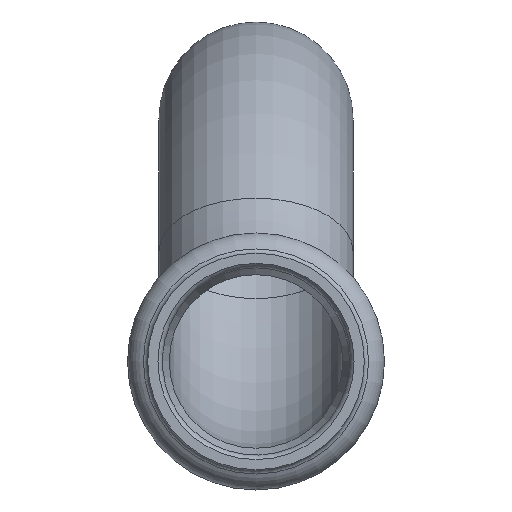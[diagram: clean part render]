
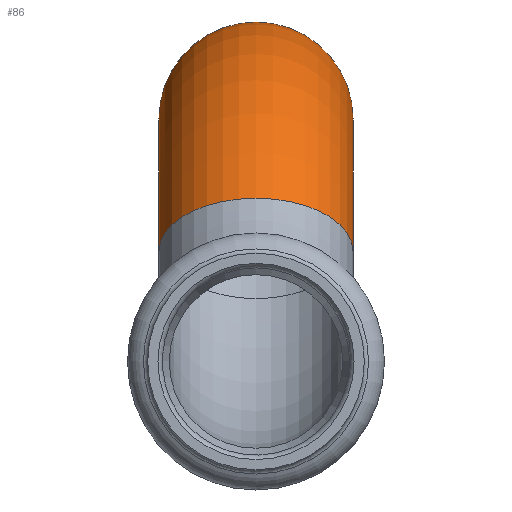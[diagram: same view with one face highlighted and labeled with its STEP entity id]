
A CAD part, front view. The second image highlights one B-rep face of the part: STEP entity #86.
In plain terms, the highlighted toroidal (fillet/blend) face has major radius 42 mm and minor radius 14 mm.
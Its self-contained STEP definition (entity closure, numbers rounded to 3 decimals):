
#86=ADVANCED_FACE('',(#308,#310),#312,.T.);
#308=FACE_OUTER_BOUND('',#309,.T.);
#309=EDGE_LOOP('',(#495));
#310=FACE_OUTER_BOUND('',#311,.T.);
#311=EDGE_LOOP('',(#496));
#312=TOROIDAL_SURFACE('',#313,42.,14.);
#313=AXIS2_PLACEMENT_3D('',#314,#315,#316);
#314=CARTESIAN_POINT('',(0.,104.,-7.));
#315=DIRECTION('',(-1.,0.,0.));
#316=DIRECTION('',(0.,-0.838,0.545));
#495=ORIENTED_EDGE('',*,*,#554,.F.);
#496=ORIENTED_EDGE('',*,*,#552,.T.);
#552=EDGE_CURVE('',#622,#622,#623,.T.);
#554=EDGE_CURVE('',#626,#626,#627,.T.);
#622=VERTEX_POINT('',#789);
#623=CIRCLE('',#790,14.);
#626=VERTEX_POINT('',#799);
#627=CIRCLE('',#800,14.);
#789=CARTESIAN_POINT('',(-14.,68.798,15.909));
#790=AXIS2_PLACEMENT_3D('',#791,#792,#793);
#791=CARTESIAN_POINT('',(0.,68.798,15.909));
#792=DIRECTION('',(0.,0.545,0.838));
#793=DIRECTION('',(-1.,0.,0.));
#799=CARTESIAN_POINT('',(-14.,139.202,15.909));
#800=AXIS2_PLACEMENT_3D('',#801,#802,#803);
#801=CARTESIAN_POINT('',(0.,139.202,15.909));
#802=DIRECTION('',(0.,0.545,-0.838));
#803=DIRECTION('',(-1.,0.,0.));
